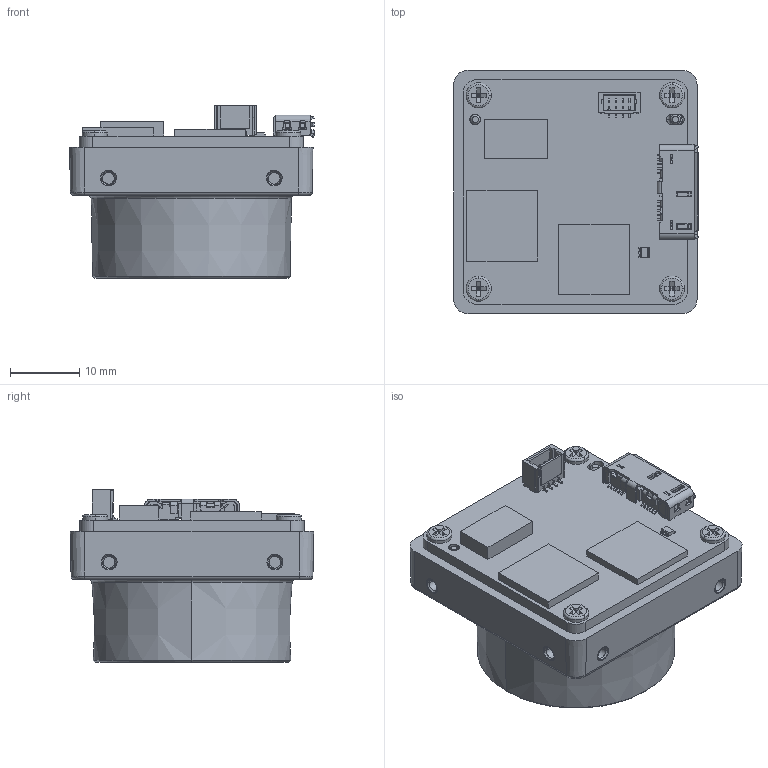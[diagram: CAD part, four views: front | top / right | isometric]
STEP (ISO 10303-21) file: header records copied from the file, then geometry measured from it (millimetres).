
FILE_DESCRIPTION((''),'2;1');
FILE_NAME('00-MV-CB060-10UM-SC','2023-02-21T14:18:00',('zhangfeixiang8'),(''),'CREO PARAMETRIC BY PTC INC, 2020044','CREO PARAMETRIC BY PTC INC, 2020044','');
FILE_SCHEMA(('CONFIG_CONTROL_DESIGN'));
Length unit declared in the file: millimetre
Products named in the file (1): 00-MV-CB060-10UM-SC
Bounding box: 35.44 x 35.24 x 25.03 mm (x, y, z)
Volume: 11522.3 mm3; surface area: 10685.1 mm2
Topology: 1 solids, 38 shells, 1950 faces, 5547 edges, 3565 vertices
Faces by surface type: plane 1101, cylinder 562, cone 142, torus 92, bspline 49, sphere 4
Entity records: 67124 total; most frequent: CARTESIAN_POINT 15697, ORIENTED_EDGE 10994, DIRECTION 10527, EDGE_CURVE 5543, VECTOR 3711, LINE 3711, VERTEX_POINT 3565, AXIS2_PLACEMENT_3D 3408
